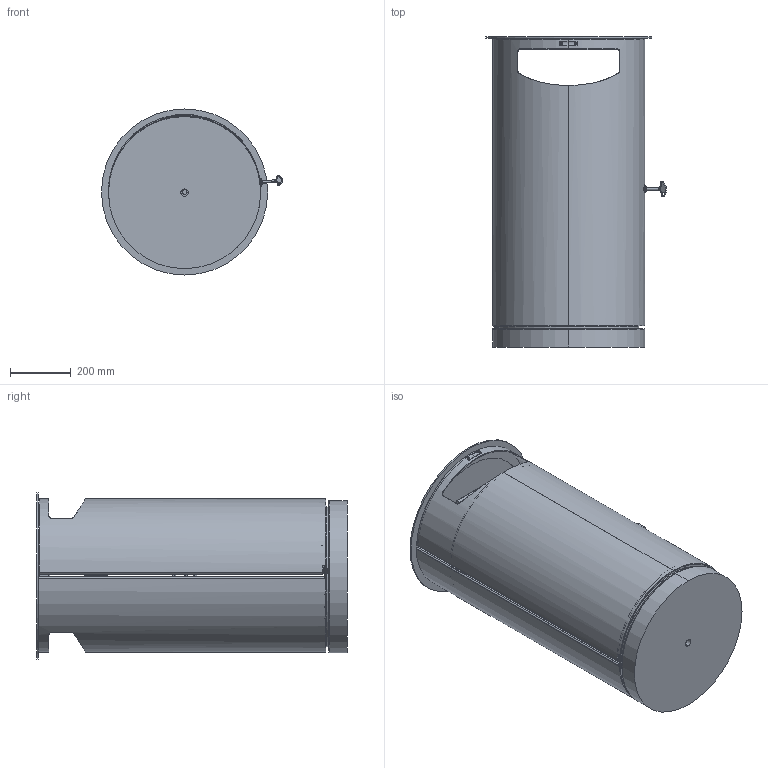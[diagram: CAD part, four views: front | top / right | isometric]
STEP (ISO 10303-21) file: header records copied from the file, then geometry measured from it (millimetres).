
FILE_DESCRIPTION (( 'STEP AP214' ), '1' );
FILE_NAME ('AS2405331.STEP', '2024-09-12T14:55:20', ( '' ), ( '' ), 'SwSTEP 2.0', 'SolidWorks 2022', '' );
FILE_SCHEMA (( 'AUTOMOTIVE_DESIGN' ));
Length unit declared in the file: millimetre
Products named in the file (40): CLAM00059; CLAM00061; 7160570; 7160400; 8409510; CLAM00056; CVAR00002; CCEN00002; CLAM00067; 8409530; CLAM00069; 8409540; 7167931; 8492040; CLAM00062; 8950110; 8430520; 8399320; 8491480_D=501; 8404270; 8460890; 8400400; 8460940; 8491910; 8409330; 8404260; PA2302373; CLAM00063; 7160560; CLAM00066; 8404040; CCEH00003; CTUB00028; CTUB00029; 8410570; CCEG00002; 8460680; CLAM00068; 8408070; AS2405331
Assembly tree (61 placements, depth 3):
  AS2405331
    CCEH00003
      CLAM00068
      CLAM00061
      CLAM00056
      CTUB00028  x2
      CLAM00062
      CLAM00063  x2
      CLAM00059
      7167931
    CCEN00002
      CLAM00067
      CLAM00056  x3
    CCEG00002
      CLAM00069
      CTUB00029
    7160400
      7160560
      7160570
      8408070  x2
    8460940
    CLAM00066
    CVAR00002
    8950110
    8491480_D=501
    8460890
    8460680
    8491910  x2
    8399320  x2
    8409540
    8404260
    8492040  x3
    8409530
    8404040
    8400400  x2
    8409510  x2
    8409330  x2
    8410570
    8430520  x4
    PA2302373  x4
    8404270  x4
Bounding box: 594.82 x 1020 x 546 mm (x, y, z)
Volume: 20557202 mm3; surface area: 4781391.9 mm2
Topology: 59 solids, 59 shells, 1470 faces, 3603 edges, 2250 vertices
Faces by surface type: plane 634, cylinder 524, cone 166, torus 88, bspline 52, sphere 6
Entity records: 39103 total; most frequent: CARTESIAN_POINT 12478, DIRECTION 5292, ORIENTED_EDGE 5014, EDGE_CURVE 2507, AXIS2_PLACEMENT_3D 2070, VERTEX_POINT 1566, VECTOR 1152, LINE 1152
